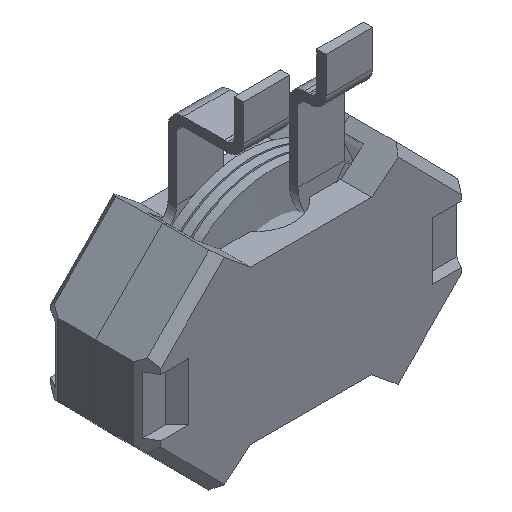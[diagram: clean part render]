
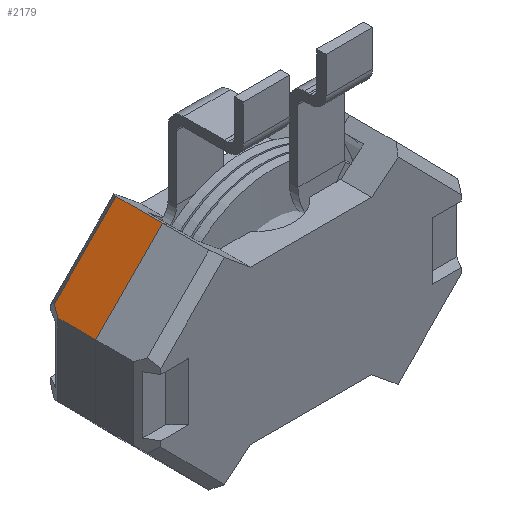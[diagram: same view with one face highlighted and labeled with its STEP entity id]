
A CAD part, isometric view. The second image highlights one B-rep face of the part: STEP entity #2179.
In plain terms, the highlighted planar face has unit normal (-0.713, 0, 0.701).
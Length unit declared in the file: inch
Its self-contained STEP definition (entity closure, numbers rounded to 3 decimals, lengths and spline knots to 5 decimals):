
#79 = VECTOR ( 'NONE', #3445, 39.37008 ) ;
#222 = LINE ( 'NONE', #1774, #3058 ) ;
#239 = CARTESIAN_POINT ( 'NONE',  ( -0.53254, 0.15945, 0.13663 ) ) ;
#260 = CARTESIAN_POINT ( 'NONE',  ( -0.54958, 0., 0.11929 ) ) ;
#479 = FACE_OUTER_BOUND ( 'NONE', #3702, .T. ) ;
#698 = ORIENTED_EDGE ( 'NONE', *, *, #730, .T. ) ;
#730 = EDGE_CURVE ( 'NONE', #2539, #771, #3337, .T. ) ;
#771 = VERTEX_POINT ( 'NONE', #2689 ) ;
#992 = VERTEX_POINT ( 'NONE', #2109 ) ;
#1011 = LINE ( 'NONE', #1401, #2449 ) ;
#1262 = ORIENTED_EDGE ( 'NONE', *, *, #4277, .T. ) ;
#1385 = LINE ( 'NONE', #4695, #4375 ) ;
#1401 = CARTESIAN_POINT ( 'NONE',  ( -0.54958, 0.18898, 0.11929 ) ) ;
#1468 = LINE ( 'NONE', #2307, #3553 ) ;
#1475 = CARTESIAN_POINT ( 'NONE',  ( -0.54958, 0., 0.11929 ) ) ;
#1774 = CARTESIAN_POINT ( 'NONE',  ( -0.51549, 0.15945, 0.15397 ) ) ;
#1956 = CARTESIAN_POINT ( 'NONE',  ( -0.32124, 0.15945, 0.35157 ) ) ;
#2013 = DIRECTION ( 'NONE',  ( -0.701, 0., -0.713 ) ) ;
#2109 = CARTESIAN_POINT ( 'NONE',  ( -0.54958, 0.12992, 0.11929 ) ) ;
#2151 = DIRECTION ( 'NONE',  ( -0.701, 0., -0.713 ) ) ;
#2179 = ADVANCED_FACE ( 'NONE', ( #479 ), #4323, .F. ) ;
#2307 = CARTESIAN_POINT ( 'NONE',  ( -0.5466, 0.13509, 0.12233 ) ) ;
#2335 = VERTEX_POINT ( 'NONE', #239 ) ;
#2384 = CARTESIAN_POINT ( 'NONE',  ( -0.54958, 0.18898, 0.11929 ) ) ;
#2449 = VECTOR ( 'NONE', #4500, 39.37008 ) ;
#2539 = VERTEX_POINT ( 'NONE', #260 ) ;
#2689 = CARTESIAN_POINT ( 'NONE',  ( -0.32124, 0., 0.35157 ) ) ;
#2737 = ORIENTED_EDGE ( 'NONE', *, *, #4762, .F. ) ;
#3058 = VECTOR ( 'NONE', #2151, 39.37008 ) ;
#3149 = DIRECTION ( 'NONE',  ( 0., -1., 0. ) ) ;
#3150 = DIRECTION ( 'NONE',  ( 0.713, 0., -0.701 ) ) ;
#3337 = LINE ( 'NONE', #1475, #79 ) ;
#3408 = ORIENTED_EDGE ( 'NONE', *, *, #5050, .T. ) ;
#3445 = DIRECTION ( 'NONE',  ( 0.701, 0., 0.713 ) ) ;
#3553 = VECTOR ( 'NONE', #5007, 39.37008 ) ;
#3702 = EDGE_LOOP ( 'NONE', ( #2737, #3408, #1262, #4330, #698 ) ) ;
#3968 = VERTEX_POINT ( 'NONE', #1956 ) ;
#4277 = EDGE_CURVE ( 'NONE', #2335, #992, #1468, .T. ) ;
#4323 = PLANE ( 'NONE',  #4436 ) ;
#4330 = ORIENTED_EDGE ( 'NONE', *, *, #4415, .T. ) ;
#4375 = VECTOR ( 'NONE', #3149, 39.37008 ) ;
#4415 = EDGE_CURVE ( 'NONE', #992, #2539, #1011, .T. ) ;
#4436 = AXIS2_PLACEMENT_3D ( 'NONE', #2384, #3150, #2013 ) ;
#4500 = DIRECTION ( 'NONE',  ( 0., -1., 0. ) ) ;
#4695 = CARTESIAN_POINT ( 'NONE',  ( -0.32124, 0.18898, 0.35157 ) ) ;
#4762 = EDGE_CURVE ( 'NONE', #3968, #771, #1385, .T. ) ;
#5007 = DIRECTION ( 'NONE',  ( -0.446, -0.772, -0.453 ) ) ;
#5050 = EDGE_CURVE ( 'NONE', #3968, #2335, #222, .T. ) ;
